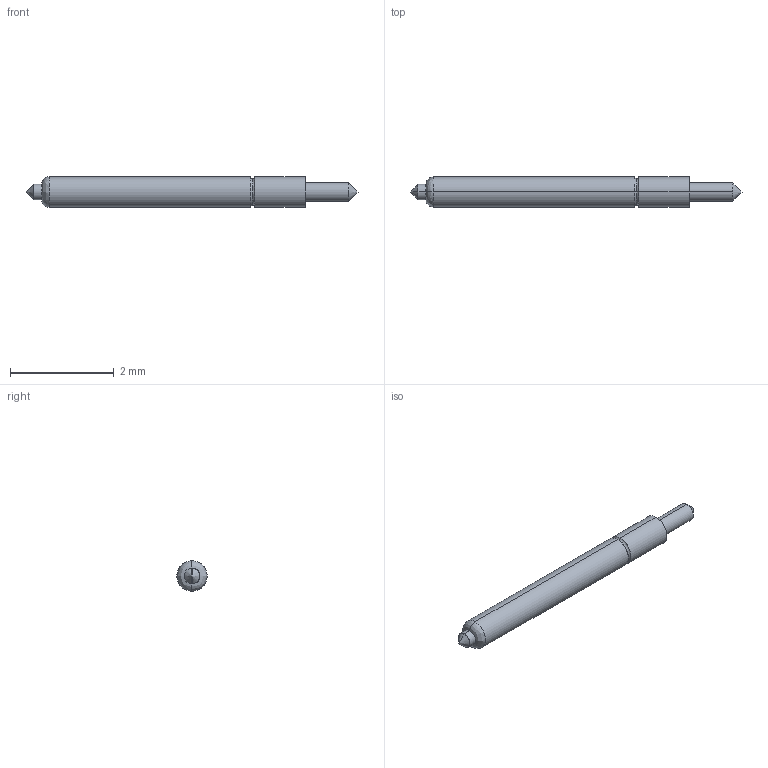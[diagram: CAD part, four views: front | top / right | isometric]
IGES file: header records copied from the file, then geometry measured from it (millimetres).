
Start section: SolidWorks IGES file using analytic representation for surfaces
Global section: file name: Z:\probe solid model mockups\Solidworks models\IGES Files\CSP8-20 IGES files\CSP8-20BB Full.IGS; native system: SolidWorks 2006 by SolidWorks Corporation; preprocessor: SolidWorks 2006 by SolidWorks Corporation; author: tsakatani; date: 080108.152830; units: inch
Bounding box: 6.4 x 0.58 x 0.58 mm (x, y, z)
Surface area: 11 mm2 (no closed solid volume)
Topology: 0 solids, 0 shells, 19 faces, 104 edges, 100 vertices
Faces by surface type: revolution 12, bspline 7
